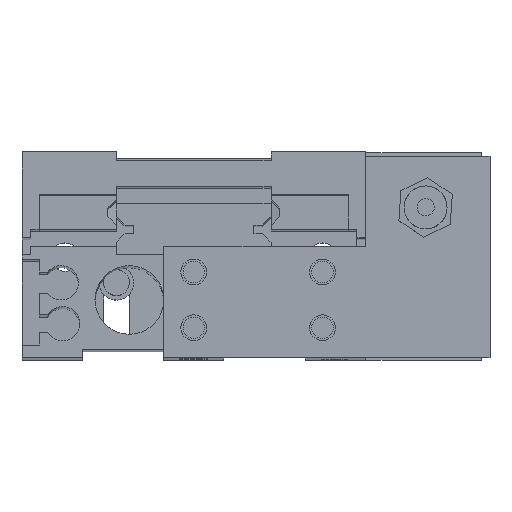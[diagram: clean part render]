
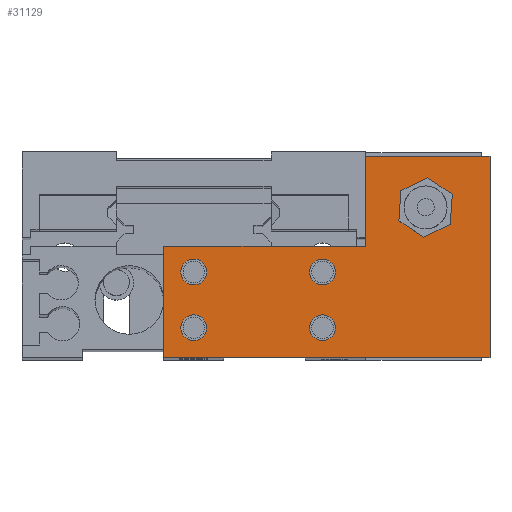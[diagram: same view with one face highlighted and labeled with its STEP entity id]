
A CAD part, top view. The second image highlights one B-rep face of the part: STEP entity #31129.
In plain terms, the highlighted planar face has unit normal (0, 0, 1).
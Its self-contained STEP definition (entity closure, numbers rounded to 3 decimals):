
#12380 = EDGE_LOOP ( 'NONE', ( #12385, #12426, #12410, #12418, #12421, #12398 ) ) ;
#12381 = ORIENTED_EDGE ( 'NONE', *, *, #31035, .F. ) ;
#12383 = EDGE_CURVE ( 'NONE', #31044, #31043, #22955, .T. ) ;
#12385 = ORIENTED_EDGE ( 'NONE', *, *, #31073, .T. ) ;
#12386 = EDGE_CURVE ( 'NONE', #31062, #31045, #22954, .T. ) ;
#12390 = EDGE_LOOP ( 'NONE', ( #12393, #12424 ) ) ;
#12391 = EDGE_LOOP ( 'NONE', ( #12403, #31130 ) ) ;
#12393 = ORIENTED_EDGE ( 'NONE', *, *, #12386, .F. ) ;
#12398 = ORIENTED_EDGE ( 'NONE', *, *, #31114, .T. ) ;
#12400 = EDGE_CURVE ( 'NONE', #31037, #20043, #23009, .T. ) ;
#12403 = ORIENTED_EDGE ( 'NONE', *, *, #12383, .F. ) ;
#12410 = ORIENTED_EDGE ( 'NONE', *, *, #31085, .T. ) ;
#12418 = ORIENTED_EDGE ( 'NONE', *, *, #31104, .T. ) ;
#12421 = ORIENTED_EDGE ( 'NONE', *, *, #31117, .T. ) ;
#12424 = ORIENTED_EDGE ( 'NONE', *, *, #31059, .F. ) ;
#12426 = ORIENTED_EDGE ( 'NONE', *, *, #31099, .T. ) ;
#18201 = CIRCLE ( 'NONE', #18204, 1.25 ) ;
#18202 = CARTESIAN_POINT ( 'NONE',  ( 4.75, 3.5, 6. ) ) ;
#18204 = AXIS2_PLACEMENT_3D ( 'NONE', #18208, #18258, #18257 ) ;
#18208 = CARTESIAN_POINT ( 'NONE',  ( 3.5, 3.5, 6. ) ) ;
#18229 = CARTESIAN_POINT ( 'NONE',  ( 0., 0., 6. ) ) ;
#18231 = AXIS2_PLACEMENT_3D ( 'NONE', #18284, #18272, #18271 ) ;
#18237 = DIRECTION ( 'NONE',  ( 1., 0., 0. ) ) ;
#18238 = DIRECTION ( 'NONE',  ( 0., 0., 1. ) ) ;
#18239 = CARTESIAN_POINT ( 'NONE',  ( 18.5, 3.5, 6. ) ) ;
#18240 = CARTESIAN_POINT ( 'NONE',  ( 28., 17.5, 6. ) ) ;
#18241 = CARTESIAN_POINT ( 'NONE',  ( 19.75, 3.5, 6. ) ) ;
#18243 = CARTESIAN_POINT ( 'NONE',  ( 17.25, 3.5, 6. ) ) ;
#18250 = CIRCLE ( 'NONE', #18253, 1.25 ) ;
#18253 = AXIS2_PLACEMENT_3D ( 'NONE', #18239, #18238, #18237 ) ;
#18257 = DIRECTION ( 'NONE',  ( 1., 0., 0. ) ) ;
#18258 = DIRECTION ( 'NONE',  ( 0., 0., 1. ) ) ;
#18271 = DIRECTION ( 'NONE',  ( 1., 0., 0. ) ) ;
#18272 = DIRECTION ( 'NONE',  ( 0., 0., 1. ) ) ;
#18276 = CARTESIAN_POINT ( 'NONE',  ( 38., 0., 6. ) ) ;
#18283 = CARTESIAN_POINT ( 'NONE',  ( 33., 17.5, 6. ) ) ;
#18284 = CARTESIAN_POINT ( 'NONE',  ( 30.5, 17.5, 6. ) ) ;
#18285 = CIRCLE ( 'NONE', #18231, 2.5 ) ;
#18295 = DIRECTION ( 'NONE',  ( 0., 1., 0. ) ) ;
#18296 = VECTOR ( 'NONE', #18295, 1000. ) ;
#18309 = CARTESIAN_POINT ( 'NONE',  ( 38., 23.5, 6. ) ) ;
#18313 = CARTESIAN_POINT ( 'NONE',  ( 38., 0., 6. ) ) ;
#18314 = LINE ( 'NONE', #18313, #18296 ) ;
#18315 = DIRECTION ( 'NONE',  ( 0., -1., 0. ) ) ;
#18316 = VECTOR ( 'NONE', #18315, 1000. ) ;
#18317 = CARTESIAN_POINT ( 'NONE',  ( 0., 0., 6. ) ) ;
#18318 = LINE ( 'NONE', #18317, #18316 ) ;
#18322 = CARTESIAN_POINT ( 'NONE',  ( 0., 13., 6. ) ) ;
#18331 = DIRECTION ( 'NONE',  ( 1., 0., 0. ) ) ;
#18332 = VECTOR ( 'NONE', #18331, 1000. ) ;
#18333 = CARTESIAN_POINT ( 'NONE',  ( 0., 0., 6. ) ) ;
#18334 = LINE ( 'NONE', #18333, #18332 ) ;
#18339 = DIRECTION ( 'NONE',  ( -1., 0., 0. ) ) ;
#18340 = CARTESIAN_POINT ( 'NONE',  ( 38., 23.5, 6. ) ) ;
#18344 = LINE ( 'NONE', #18340, #18385 ) ;
#18351 = CARTESIAN_POINT ( 'NONE',  ( 23.5, 23.5, 6. ) ) ;
#18353 = CARTESIAN_POINT ( 'NONE',  ( 23.5, 13., 6. ) ) ;
#18362 = VECTOR ( 'NONE', #18422, 1000. ) ;
#18366 = CARTESIAN_POINT ( 'NONE',  ( 3.5, 10., 6. ) ) ;
#18367 = LINE ( 'NONE', #18423, #18362 ) ;
#18373 = CIRCLE ( 'NONE', #18421, 1.25 ) ;
#18377 = CARTESIAN_POINT ( 'NONE',  ( 18.5, 10., 6. ) ) ;
#18385 = VECTOR ( 'NONE', #18339, 1000. ) ;
#18391 = FACE_OUTER_BOUND ( 'NONE', #12380, .T. ) ;
#18392 = DIRECTION ( 'NONE',  ( 1., 0., 0. ) ) ;
#18393 = DIRECTION ( 'NONE',  ( 0., 0., 1. ) ) ;
#18394 = AXIS2_PLACEMENT_3D ( 'NONE', #18377, #18393, #18392 ) ;
#18395 = FACE_BOUND ( 'NONE', #31122, .T. ) ;
#18397 = FACE_BOUND ( 'NONE', #31135, .T. ) ;
#18400 = PLANE ( 'NONE',  #18452 ) ;
#18401 = FACE_BOUND ( 'NONE', #12390, .T. ) ;
#18402 = FACE_BOUND ( 'NONE', #31137, .T. ) ;
#18408 = CIRCLE ( 'NONE', #18394, 1.25 ) ;
#18409 = DIRECTION ( 'NONE',  ( 0., -1., 0. ) ) ;
#18410 = VECTOR ( 'NONE', #18409, 1000. ) ;
#18411 = CARTESIAN_POINT ( 'NONE',  ( 23.5, 23.5, 6. ) ) ;
#18413 = DIRECTION ( 'NONE',  ( 1., 0., 0. ) ) ;
#18414 = DIRECTION ( 'NONE',  ( 0., 0., 1. ) ) ;
#18416 = LINE ( 'NONE', #18411, #18410 ) ;
#18417 = FACE_BOUND ( 'NONE', #12391, .T. ) ;
#18421 = AXIS2_PLACEMENT_3D ( 'NONE', #18366, #18414, #18413 ) ;
#18422 = DIRECTION ( 'NONE',  ( -1., 0., 0. ) ) ;
#18423 = CARTESIAN_POINT ( 'NONE',  ( 0., 13., 6. ) ) ;
#18449 = DIRECTION ( 'NONE',  ( -1., 0., 0. ) ) ;
#18450 = DIRECTION ( 'NONE',  ( 0., 0., -1. ) ) ;
#18451 = CARTESIAN_POINT ( 'NONE',  ( 0., 13., 6. ) ) ;
#18452 = AXIS2_PLACEMENT_3D ( 'NONE', #18451, #18450, #18449 ) ;
#19881 = VERTEX_POINT ( 'NONE', #25460 ) ;
#19893 = VERTEX_POINT ( 'NONE', #25511 ) ;
#19913 = EDGE_CURVE ( 'NONE', #19893, #19941, #25513, .T. ) ;
#19941 = VERTEX_POINT ( 'NONE', #25514 ) ;
#20036 = VERTEX_POINT ( 'NONE', #25504 ) ;
#20043 = VERTEX_POINT ( 'NONE', #25540 ) ;
#20050 = EDGE_CURVE ( 'NONE', #19881, #20036, #25542, .T. ) ;
#22947 = DIRECTION ( 'NONE',  ( 1., 0., 0. ) ) ;
#22948 = DIRECTION ( 'NONE',  ( 0., 0., 1. ) ) ;
#22950 = AXIS2_PLACEMENT_3D ( 'NONE', #22979, #22948, #22947 ) ;
#22951 = AXIS2_PLACEMENT_3D ( 'NONE', #23020, #23013, #23012 ) ;
#22954 = CIRCLE ( 'NONE', #22951, 2.5 ) ;
#22955 = CIRCLE ( 'NONE', #22950, 1.25 ) ;
#22979 = CARTESIAN_POINT ( 'NONE',  ( 18.5, 3.5, 6. ) ) ;
#22997 = DIRECTION ( 'NONE',  ( 1., 0., 0. ) ) ;
#22998 = DIRECTION ( 'NONE',  ( 0., 0., 1. ) ) ;
#22999 = CARTESIAN_POINT ( 'NONE',  ( 3.5, 3.5, 6. ) ) ;
#23000 = AXIS2_PLACEMENT_3D ( 'NONE', #22999, #22998, #22997 ) ;
#23009 = CIRCLE ( 'NONE', #23000, 1.25 ) ;
#23012 = DIRECTION ( 'NONE',  ( 1., 0., 0. ) ) ;
#23013 = DIRECTION ( 'NONE',  ( 0., 0., 1. ) ) ;
#23020 = CARTESIAN_POINT ( 'NONE',  ( 30.5, 17.5, 6. ) ) ;
#25460 = CARTESIAN_POINT ( 'NONE',  ( 2.25, 10., 6. ) ) ;
#25502 = DIRECTION ( 'NONE',  ( 0., 0., 1. ) ) ;
#25503 = CARTESIAN_POINT ( 'NONE',  ( 18.5, 10., 6. ) ) ;
#25504 = CARTESIAN_POINT ( 'NONE',  ( 4.75, 10., 6. ) ) ;
#25506 = AXIS2_PLACEMENT_3D ( 'NONE', #25503, #25502, #25544 ) ;
#25511 = CARTESIAN_POINT ( 'NONE',  ( 17.25, 10., 6. ) ) ;
#25513 = CIRCLE ( 'NONE', #25506, 1.25 ) ;
#25514 = CARTESIAN_POINT ( 'NONE',  ( 19.75, 10., 6. ) ) ;
#25530 = DIRECTION ( 'NONE',  ( 1., 0., 0. ) ) ;
#25531 = DIRECTION ( 'NONE',  ( 0., 0., 1. ) ) ;
#25532 = CARTESIAN_POINT ( 'NONE',  ( 3.5, 10., 6. ) ) ;
#25533 = AXIS2_PLACEMENT_3D ( 'NONE', #25532, #25531, #25530 ) ;
#25540 = CARTESIAN_POINT ( 'NONE',  ( 2.25, 3.5, 6. ) ) ;
#25542 = CIRCLE ( 'NONE', #25533, 1.25 ) ;
#25544 = DIRECTION ( 'NONE',  ( 1., 0., 0. ) ) ;
#31035 = EDGE_CURVE ( 'NONE', #20043, #31037, #18201, .T. ) ;
#31037 = VERTEX_POINT ( 'NONE', #18202 ) ;
#31042 = EDGE_CURVE ( 'NONE', #31043, #31044, #18250, .T. ) ;
#31043 = VERTEX_POINT ( 'NONE', #18243 ) ;
#31044 = VERTEX_POINT ( 'NONE', #18241 ) ;
#31045 = VERTEX_POINT ( 'NONE', #18240 ) ;
#31051 = VERTEX_POINT ( 'NONE', #18229 ) ;
#31059 = EDGE_CURVE ( 'NONE', #31045, #31062, #18285, .T. ) ;
#31060 = VERTEX_POINT ( 'NONE', #18276 ) ;
#31062 = VERTEX_POINT ( 'NONE', #18283 ) ;
#31070 = VERTEX_POINT ( 'NONE', #18322 ) ;
#31073 = EDGE_CURVE ( 'NONE', #31070, #31051, #18318, .T. ) ;
#31085 = EDGE_CURVE ( 'NONE', #31060, #31096, #18314, .T. ) ;
#31091 = VERTEX_POINT ( 'NONE', #18351 ) ;
#31096 = VERTEX_POINT ( 'NONE', #18309 ) ;
#31099 = EDGE_CURVE ( 'NONE', #31051, #31060, #18334, .T. ) ;
#31102 = VERTEX_POINT ( 'NONE', #18353 ) ;
#31104 = EDGE_CURVE ( 'NONE', #31096, #31091, #18344, .T. ) ;
#31114 = EDGE_CURVE ( 'NONE', #31102, #31070, #18367, .T. ) ;
#31115 = ORIENTED_EDGE ( 'NONE', *, *, #31116, .F. ) ;
#31116 = EDGE_CURVE ( 'NONE', #20036, #19881, #18373, .T. ) ;
#31117 = EDGE_CURVE ( 'NONE', #31091, #31102, #18416, .T. ) ;
#31120 = ORIENTED_EDGE ( 'NONE', *, *, #20050, .F. ) ;
#31122 = EDGE_LOOP ( 'NONE', ( #31124, #12381 ) ) ;
#31124 = ORIENTED_EDGE ( 'NONE', *, *, #12400, .F. ) ;
#31127 = ORIENTED_EDGE ( 'NONE', *, *, #31128, .F. ) ;
#31128 = EDGE_CURVE ( 'NONE', #19941, #19893, #18408, .T. ) ;
#31129 = ADVANCED_FACE ( 'NONE', ( #18397, #18402, #18395, #18417, #18401, #18391 ), #18400, .F. ) ;
#31130 = ORIENTED_EDGE ( 'NONE', *, *, #31042, .F. ) ;
#31133 = ORIENTED_EDGE ( 'NONE', *, *, #19913, .F. ) ;
#31135 = EDGE_LOOP ( 'NONE', ( #31115, #31120 ) ) ;
#31137 = EDGE_LOOP ( 'NONE', ( #31127, #31133 ) ) ;
